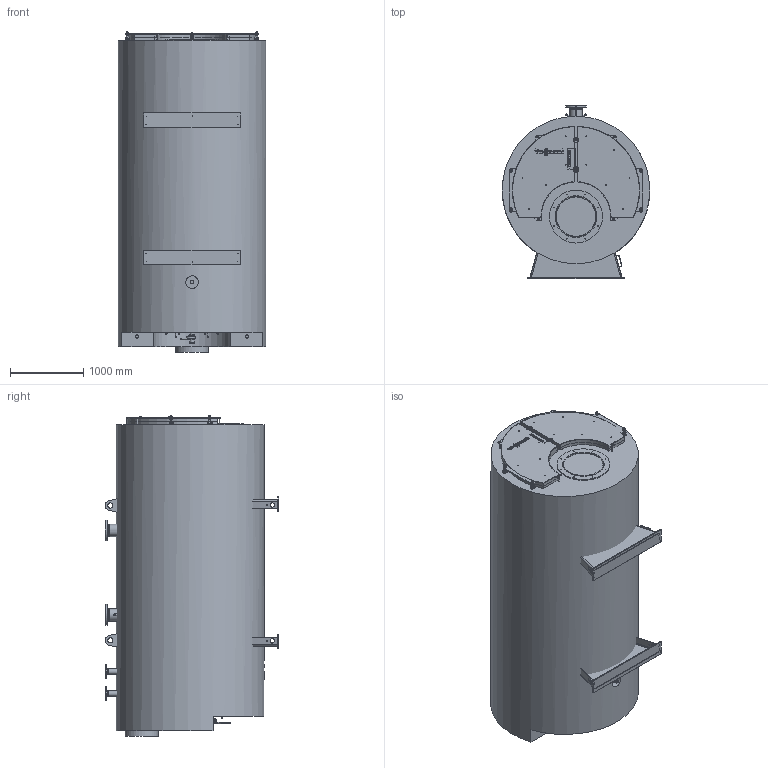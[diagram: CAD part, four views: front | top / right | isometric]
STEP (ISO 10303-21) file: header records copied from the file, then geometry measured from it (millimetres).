
FILE_DESCRIPTION(/* description */ (''),/* implementation_level */ '2;1');
FILE_NAME(/* name */ 'FU0284798_T001.stp',/* time_stamp */ '2017-05-10T12:02:13+02:00',/* author */ (''),/* organization */ (''),/* preprocessor_version */ 'ST-DEVELOPER v16',/* originating_system */ 'SIEMENS PLM Software NX 10.0',/* authorisation */ '');
FILE_SCHEMA (('AUTOMOTIVE_DESIGN { 1 0 10303 214 3 1 1 1 }'));
Length unit declared in the file: millimetre
Products named in the file (108): 9028015_T001; 5520421_T001; 5520412_T001; 5520211_T001; 5661389_T003; 9578654_T001; 5996838_T001; 5996837_T001; 5996836_T001; 5996835_T001; 5661390_T002; 5655433_T001; 9024203_T001; 5655434_T001; 5015776_T001; 5639538_T001; 9017046_T001; 5743753_T001; 5875055_T001; 5875054_T001; 5633913_T005; 9017054_T001; 5152223_T004; 9548563_T001; 5752984_T002; 5995843_T002; 6040729_T001; 5652551_T002; 6041691_T001; 5996819_T001; 5996818_T001; 9649746_T001; 9516963_T001; 5996870_T001; FU0288022_T002; 5996821_T001; 5996817_T001; 5996820_T001; 5749858_T002; 5641874_T002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
Assembly tree (245 placements, depth 6):
  FU0284798_T001
    FU0284799_T001
    FU0287079_T001_MODELNX-ARRAGMNTArrangement 1
      7645306_T001_MODEL
        7645307_T001_MODEL
          5643645_T004  x2
          5643372_T003  x2
          6043056_T001  x2
          5893538_T001
          5157685_T004  x2
          5643500_T003
          9529527_T001  x8
        7593291_T002_MODEL  x2
          5184434_T003
          9028008_T001
        9607197_T001  x8
        9028035_T002  x8
        9503194_T001
      7354175_T008_MODEL
        7354174_T007_MODEL
          9589709_T001  x3
          7354173_T003_MODEL
            5639538_T001
            5015776_T001  x2
            5655434_T001
            9024203_T001  x3
            5655433_T001
          5656677_T004
          5275142_T005  x3
          5656673_T003
          5456644_T005  x3
          9045119_T001
        9597258_T001  x6
        9500384_T001  x6
        9591781_T001  x6
        5655437_T001
        5655436_T001
        7229828_T008_MODEL
          9542038_T002
          9542040_T001
        9542083_T001
      7584028_T004_MODEL
        9516387_T001  x4
        9028008_T001  x8
        9801033_T001  x8
        5802704_T010
        5052125_T002
        7584034_T001_MODEL
          5656550_T002  x2
          9639650_T001  x2
          5996360_T001  x4
          5996822_T001
          5641871_T004  x2
          5641872_T002
          5641874_T002  x2
          5749858_T002  x4
        7584031_T002_MODEL
          5996820_T001
          5996817_T001
          5996821_T001
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Bounding box: 2010 x 2362 x 4370 mm (x, y, z)
Volume: 13164955091 mm3; surface area: 65997741.7 mm2
Topology: 241 solids, 241 shells, 2888 faces, 6655 edges, 4327 vertices
Faces by surface type: plane 1453, cylinder 826, cone 374, bspline 143, torus 45, extrusion 43, sphere 4
Full cylindrical faces by diameter (mm): 1 x42, 2.2 x4, 3.2 x4, 3.3 x4, 4 x6, 4.6 x4, 5 x4, 6.2 x8, 6.5 x4, 6.647 x12, 7.8 x14, 8 x14, 8.376 x8, 10 x8, 10.106 x9, 10.3 x8, 10.5 x6, 10.77 x8, 10.86 x9, 12 x59, 13 x14, 13.27 x12, 14 x7, 14.63 x8, 15 x13, 15.5 x9, 16 x3, 17.294 x8, 18 x32, 18.63 x2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
Entity records: 48195 total; most frequent: CARTESIAN_POINT 14736, DIRECTION 5954, ORIENTED_EDGE 5408, EDGE_CURVE 2704, AXIS2_PLACEMENT_3D 2364, VERTEX_POINT 2023, EDGE_LOOP 2000, ADVANCED_FACE 1314
